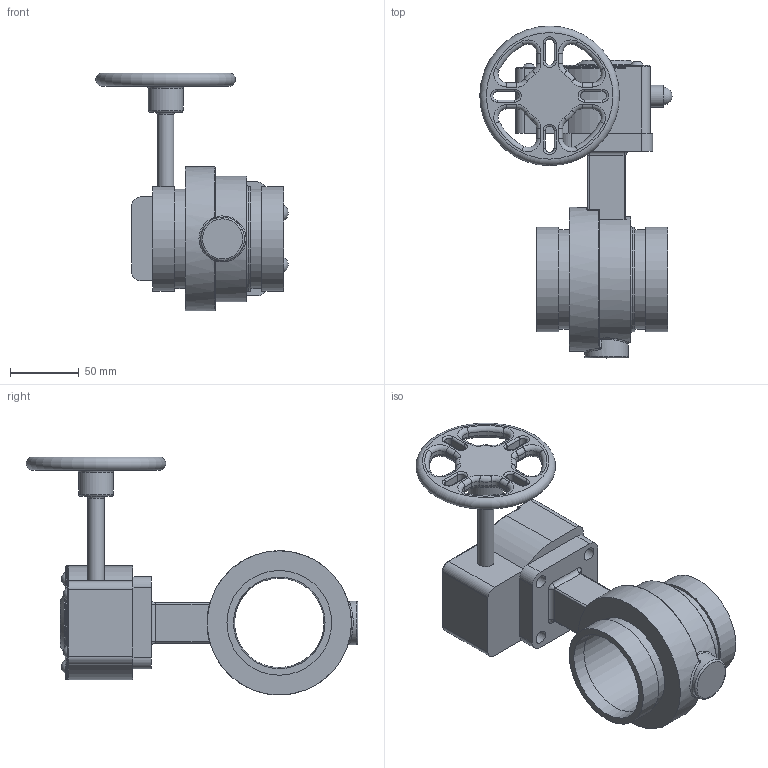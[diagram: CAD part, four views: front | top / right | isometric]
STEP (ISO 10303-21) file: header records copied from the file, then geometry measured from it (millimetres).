
FILE_DESCRIPTION(/* description */ ('Vic Series 461 Vic-300 MasterSeal SS Butterfly Valve w/Gear Op','CAx-IF Rec.Pracs.---Representation and Presentation of Product Manufacturing Information (PMI)---4.0---2014-10-13'),/* implementation_level */ '2;1');
FILE_NAME(/* name */ 'C:\Users\kkamble\AppData\Roaming\Autodesk\ApplicationPlugins\Back Up\Victaulic_SS-OGS_Valve Butterfly Vic-300 Masterseal GO_Series 461 (OGS)\Victaulic_SS-OGS_Valve Butterfly Vic-300 Masterseal GO_02.5 (76.1) (65).stp',/* time_stamp */ '2020-09-02T14:50:55+05:00',/* author */ ('jbrannon'),/* organization */ ('Victaulic'),/* preprocessor_version */ 'ST-DEVELOPER v17.2',/* originating_system */ 'Autodesk Inventor 2019',/* authorisation */ '');
FILE_SCHEMA (('AP242_MANAGED_MODEL_BASED_3D_ENGINEERING_MIM_LF { 1 0 10303 442 1 1 4 }'));
Length unit declared in the file: inch
Products named in the file (3): 461-02.5 (76.1); 461-02.5(76.1); 461-02.5
Assembly tree (2 placements, depth 2):
  461-02.5 (76.1)
    461-02.5(76.1)
    461-02.5
Bounding box: 139.95 x 241.3 x 173.1 mm (x, y, z)
Volume: 747996.6 mm3; surface area: 130631.1 mm2
Topology: 2 solids, 2 shells, 361 faces, 854 edges, 520 vertices
Faces by surface type: cylinder 141, plane 96, torus 93, bspline 16, sphere 12, cone 3
Full cylindrical faces by diameter (mm): 7.938 x4, 8.128 x1, 9.652 x5, 11.938 x1, 15.875 x2, 25.4 x1, 31.75 x1, 44.45 x1, 54.102 x1, 65.024 x1, 72.263 x2, 76.2 x3, 91.44 x1, 104.902 x1
Entity records: 11590 total; most frequent: CARTESIAN_POINT 2441, DIRECTION 2015, ORIENTED_EDGE 1696, AXIS2_PLACEMENT_3D 852, EDGE_CURVE 848, VERTEX_POINT 520, CIRCLE 498, EDGE_LOOP 416
